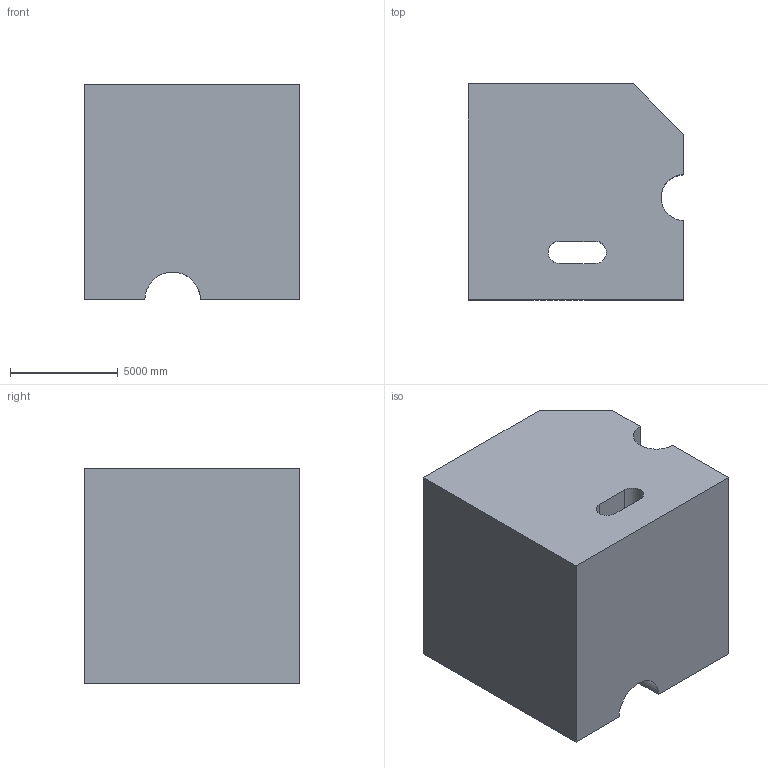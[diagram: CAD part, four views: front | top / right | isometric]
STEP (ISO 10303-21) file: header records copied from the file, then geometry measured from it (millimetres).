
FILE_DESCRIPTION (( 'STEP AP203' ), '1' );
FILE_NAME ('1347.STEP', '2022-08-18T13:58:27', ( 'user' ), ( '' ), 'SwSTEP 2.0', 'SolidWorks 2021', '' );
FILE_SCHEMA (( 'CONFIG_CONTROL_DESIGN' ));
Length unit declared in the file: centimetre
Products named in the file (1): 1347
Bounding box: 10000 x 10000 x 10000 mm (x, y, z)
Volume: 905106612184.1 mm3; surface area: 654354844.1 mm2
Topology: 1 solids, 1 shells, 19 faces, 54 edges, 36 vertices
Faces by surface type: plane 11, cylinder 8
Entity records: 820 total; most frequent: CARTESIAN_POINT 235, ORIENTED_EDGE 108, DIRECTION 104, EDGE_CURVE 54, VECTOR 36, LINE 36, VERTEX_POINT 36, AXIS2_PLACEMENT_3D 34
